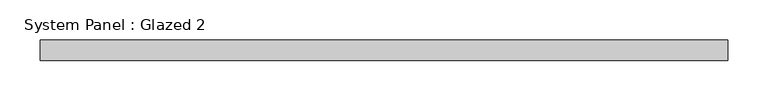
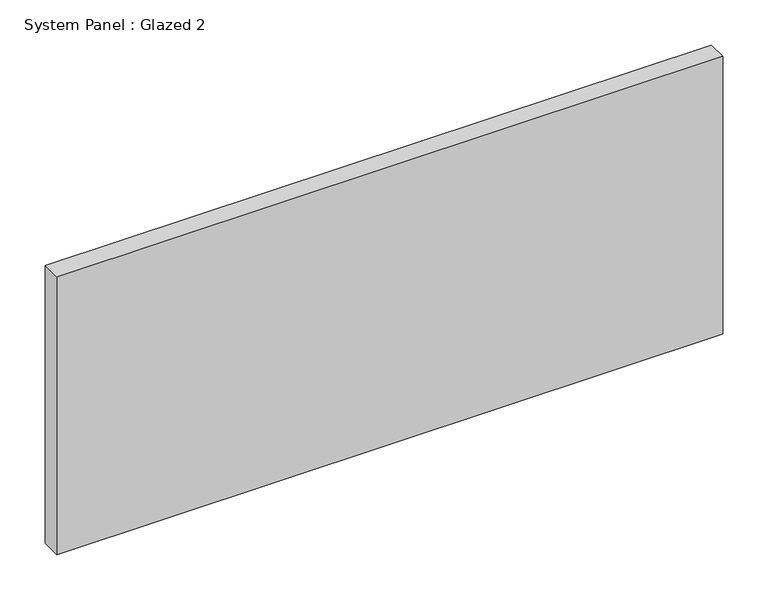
"""IFC4 building model written with IfcOpenShell, lengths in millimetres: plate geometry, System Panel : Glazed 2."""

from ifc_helpers import new_model, si_unit, origin, origin_with_axes, place, context, project, spatial, polyline, outline, extrude, source, transform, mapped, element, save


def system_panel_glazed_2_529b0a8b(model_context):
    return source(origin(), model_context, "Body", "SweptSolid", [
        extrude(outline(polyline([(425.0, -12.5), (-425.0, -12.5), (-425.0, 12.5), (425.0, 12.5), (425.0, -12.5)])), origin_with_axes(), (0.0, 0.0, 1.0), 375.0),
    ])


if __name__ == "__main__":
    model = new_model("IFC4")
    model_context = context("Model", 3, world=origin())
    ifc_project = project(units=[si_unit("LENGTHUNIT", "METRE", prefix="MILLI")], contexts=[model_context])
    site = spatial("IfcSite", under=ifc_project)
    building = spatial("IfcBuilding", under=site)
    placement = place(None, origin())
    system_panel_glazed_2_shape = system_panel_glazed_2_529b0a8b(model_context)
    element("IfcPlate", 1, ObjectType="System Panel : Glazed 2", at=placement, inside=building, context=model_context, shape_type="MappedRepresentation", body=[
        mapped(system_panel_glazed_2_shape, transform((0.0, 0.0, 0.0), x_axis=(1.0, 0.0, 0.0), y_axis=(0.0, 1.0, 0.0), z_axis=(0.0, 0.0, 1.0))),
    ])
    save(model, "model.ifc")
